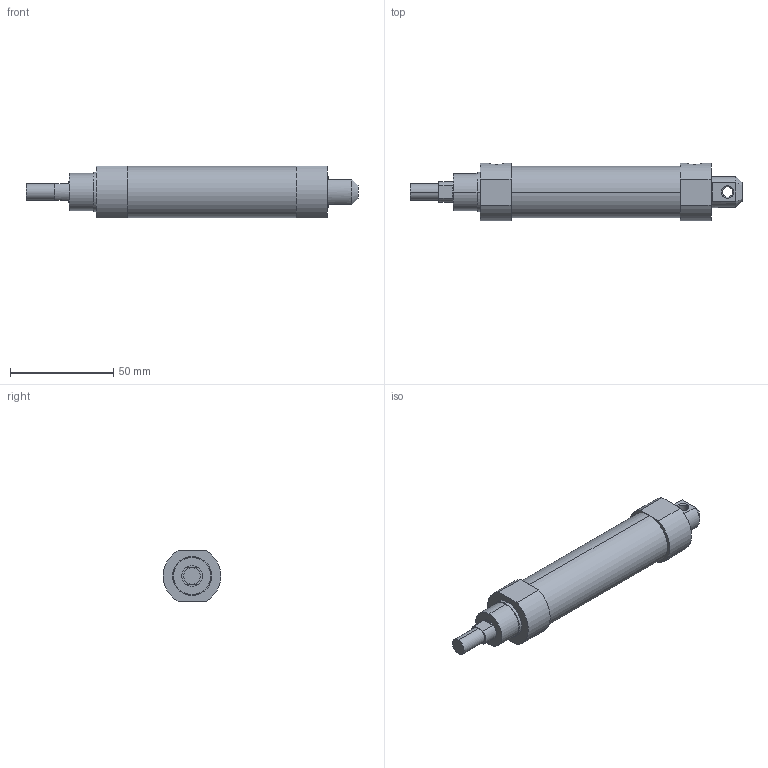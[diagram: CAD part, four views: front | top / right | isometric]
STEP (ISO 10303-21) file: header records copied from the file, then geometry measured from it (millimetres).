
FILE_DESCRIPTION (( 'STEP AP203' ), '1' );
FILE_NAME ('J#2-20-50-C.STEP', '2016-03-08T06:57:02', ( '' ), ( '' ), 'SwSTEP 2.0', 'SolidWorks 2014', '' );
FILE_SCHEMA (( 'CONFIG_CONTROL_DESIGN' ));
Length unit declared in the file: millimetre
Products named in the file (1): J#2-20-50-C
Bounding box: 161 x 27.95 x 25 mm (x, y, z)
Volume: 62951.2 mm3; surface area: 13191.4 mm2
Topology: 1 solids, 1 shells, 56 faces, 124 edges, 76 vertices
Faces by surface type: plane 28, cylinder 22, cone 6
Entity records: 1751 total; most frequent: CARTESIAN_POINT 401, DIRECTION 284, ORIENTED_EDGE 248, EDGE_CURVE 124, AXIS2_PLACEMENT_3D 111, VERTEX_POINT 76, EDGE_LOOP 64, LINE 62
